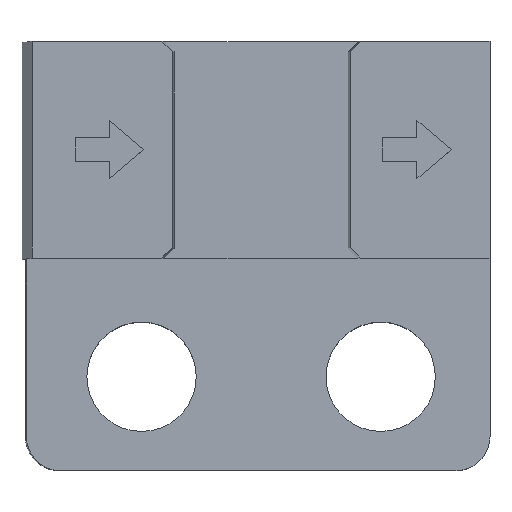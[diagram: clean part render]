
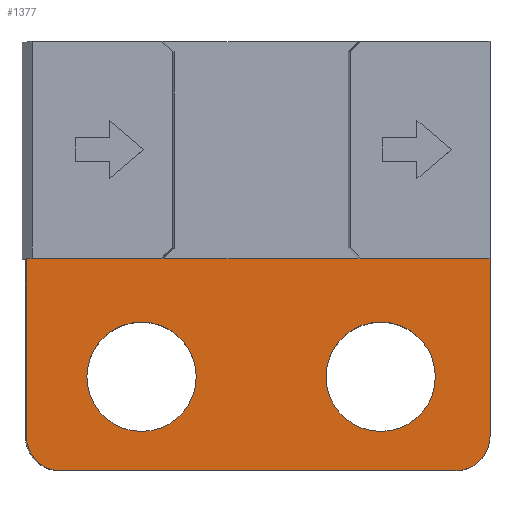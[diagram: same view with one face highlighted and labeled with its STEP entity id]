
A CAD part, top view. The second image highlights one B-rep face of the part: STEP entity #1377.
In plain terms, the highlighted planar face has unit normal (0, 0, 1).
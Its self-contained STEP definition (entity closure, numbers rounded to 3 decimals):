
#114=CARTESIAN_POINT('',(5.7,-8.375,11.7));
#115=DIRECTION('',(0.,0.,-1.));
#116=DIRECTION('',(1.,0.,0.));
#117=AXIS2_PLACEMENT_3D('',#114,#115,#116);
#119=CARTESIAN_POINT('',(-5.866,-9.375,11.7));
#120=CARTESIAN_POINT('',(-6.033,-9.375,11.7));
#121=CARTESIAN_POINT('',(-6.294,-9.303,11.7));
#122=CARTESIAN_POINT('',(-6.588,-9.097,11.7));
#123=CARTESIAN_POINT('',(-6.794,-8.803,11.7));
#124=CARTESIAN_POINT('',(-6.866,-8.542,11.7));
#125=CARTESIAN_POINT('',(-6.866,-8.375,11.7));
#127=DIRECTION('',(0.,1.,0.));
#128=VECTOR('',#127,5.2);
#129=CARTESIAN_POINT('',(-6.866,-8.375,11.7));
#130=LINE('',#129,#128);
#131=DIRECTION('',(1.,0.,0.));
#132=VECTOR('',#131,13.566);
#133=CARTESIAN_POINT('',(-6.866,-3.175,11.7));
#134=LINE('',#133,#132);
#135=CARTESIAN_POINT('',(3.5,-6.625,11.7));
#136=DIRECTION('',(0.,0.,1.));
#137=DIRECTION('',(-1.,0.,0.));
#138=AXIS2_PLACEMENT_3D('',#135,#136,#137);
#140=CARTESIAN_POINT('',(3.5,-6.625,11.7));
#141=DIRECTION('',(0.,0.,1.));
#142=DIRECTION('',(1.,0.,0.));
#143=AXIS2_PLACEMENT_3D('',#140,#141,#142);
#145=CARTESIAN_POINT('',(-3.5,-6.625,11.7));
#146=DIRECTION('',(0.,0.,1.));
#147=DIRECTION('',(-1.,0.,0.));
#148=AXIS2_PLACEMENT_3D('',#145,#146,#147);
#150=CARTESIAN_POINT('',(-3.5,-6.625,11.7));
#151=DIRECTION('',(0.,0.,1.));
#152=DIRECTION('',(1.,0.,0.));
#153=AXIS2_PLACEMENT_3D('',#150,#151,#152);
#167=DIRECTION('',(1.,0.,0.));
#168=VECTOR('',#167,11.566);
#169=CARTESIAN_POINT('',(-5.866,-9.375,11.7));
#170=LINE('',#169,#168);
#199=DIRECTION('',(0.,1.,0.));
#200=VECTOR('',#199,5.2);
#201=CARTESIAN_POINT('',(6.7,-8.375,11.7));
#202=LINE('',#201,#200);
#943=CARTESIAN_POINT('',(6.7,-3.175,11.7));
#944=VERTEX_POINT('',#943);
#945=CARTESIAN_POINT('',(-6.866,-3.175,11.7));
#946=VERTEX_POINT('',#945);
#978=CARTESIAN_POINT('',(-6.866,-8.375,11.7));
#979=VERTEX_POINT('',#978);
#984=VERTEX_POINT('',#119);
#985=CARTESIAN_POINT('',(6.7,-8.375,11.7));
#986=CARTESIAN_POINT('',(5.7,-9.375,11.7));
#987=VERTEX_POINT('',#985);
#988=VERTEX_POINT('',#986);
#989=CARTESIAN_POINT('',(1.9,-6.625,11.7));
#990=CARTESIAN_POINT('',(5.1,-6.625,11.7));
#991=VERTEX_POINT('',#989);
#992=VERTEX_POINT('',#990);
#993=CARTESIAN_POINT('',(-5.1,-6.625,11.7));
#994=CARTESIAN_POINT('',(-1.9,-6.625,11.7));
#995=VERTEX_POINT('',#993);
#996=VERTEX_POINT('',#994);
#1348=CARTESIAN_POINT('',(6.7,-3.175,11.7));
#1349=DIRECTION('',(0.,0.,1.));
#1350=DIRECTION('',(0.,-1.,0.));
#1351=AXIS2_PLACEMENT_3D('',#1348,#1349,#1350);
#1352=PLANE('',#1351);
#1354=ORIENTED_EDGE('',*,*,#1353,.T.);
#1356=ORIENTED_EDGE('',*,*,#1355,.F.);
#1357=ORIENTED_EDGE('',*,*,#1339,.T.);
#1358=ORIENTED_EDGE('',*,*,#1329,.T.);
#1360=ORIENTED_EDGE('',*,*,#1359,.T.);
#1362=ORIENTED_EDGE('',*,*,#1361,.F.);
#1363=EDGE_LOOP('',(#1354,#1356,#1357,#1358,#1360,#1362));
#1364=FACE_OUTER_BOUND('',#1363,.F.);
#1366=ORIENTED_EDGE('',*,*,#1365,.T.);
#1368=ORIENTED_EDGE('',*,*,#1367,.T.);
#1369=EDGE_LOOP('',(#1366,#1368));
#1370=FACE_BOUND('',#1369,.F.);
#1372=ORIENTED_EDGE('',*,*,#1371,.T.);
#1374=ORIENTED_EDGE('',*,*,#1373,.T.);
#1375=EDGE_LOOP('',(#1372,#1374));
#1376=FACE_BOUND('',#1375,.F.);
#1377=ADVANCED_FACE('',(#1364,#1370,#1376),#1352,.T.);
#118=CIRCLE('',#117,1.);
#126=B_SPLINE_CURVE_WITH_KNOTS('',3,(#119,#120,#121,#122,#123,#124,#125),
.UNSPECIFIED.,.F.,.F.,(4,1,1,1,4),(0.,0.25,0.5,0.75,1.),
.UNSPECIFIED.);
#139=CIRCLE('',#138,1.6);
#144=CIRCLE('',#143,1.6);
#149=CIRCLE('',#148,1.6);
#154=CIRCLE('',#153,1.6);
#1329=EDGE_CURVE('',#979,#946,#130,.T.);
#1339=EDGE_CURVE('',#984,#979,#126,.T.);
#1353=EDGE_CURVE('',#987,#988,#118,.T.);
#1355=EDGE_CURVE('',#984,#988,#170,.T.);
#1359=EDGE_CURVE('',#946,#944,#134,.T.);
#1361=EDGE_CURVE('',#987,#944,#202,.T.);
#1365=EDGE_CURVE('',#991,#992,#139,.T.);
#1367=EDGE_CURVE('',#992,#991,#144,.T.);
#1371=EDGE_CURVE('',#995,#996,#149,.T.);
#1373=EDGE_CURVE('',#996,#995,#154,.T.);
